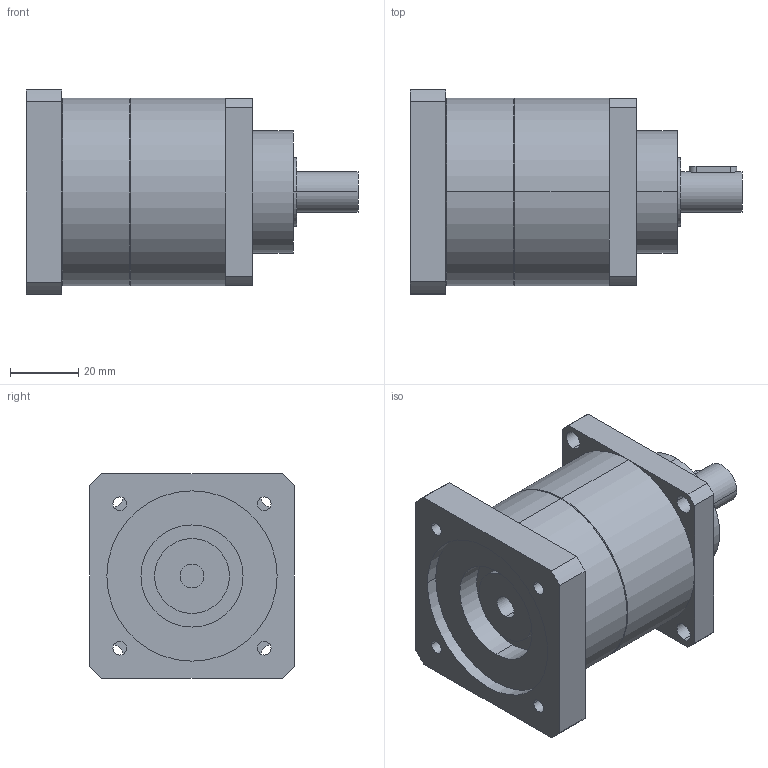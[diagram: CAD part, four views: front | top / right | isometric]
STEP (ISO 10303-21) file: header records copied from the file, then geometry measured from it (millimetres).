
FILE_DESCRIPTION(('CoCreate Modeling STEP Export'),'2;1');
FILE_NAME('GPT55_ig-3-4-5-7-10_12_B5A_7_P18.stp','2014-08-25T14:33:36',(''),(''),'CoCreate Modeling STEP processor for AP214 (Solid Model)','CoCreate Modeling 16.00C 25-Feb-2009 (C) Parametric Technology GmbH','');
FILE_SCHEMA(('AUTOMOTIVE_DESIGN { 1 0 10303 214 1 1 1 1 }'));
Length unit declared in the file: millimetre
Products named in the file (2): GPT55_ig-3-4-5-7-10_12_B5A_7_P18
Assembly tree (1 placements, depth 2):
  GPT55_ig-3-4-5-7-10_12_B5A_7_P18
    GPT55_ig-3-4-5-7-10_12_B5A_7_P18
Bounding box: 97.5 x 60 x 60 mm (x, y, z)
Volume: 177325.5 mm3; surface area: 25995.6 mm2
Topology: 1 solids, 1 shells, 77 faces, 197 edges, 132 vertices
Faces by surface type: cylinder 46, plane 27, cone 4
Entity records: 2480 total; most frequent: CARTESIAN_POINT 703, ORIENTED_EDGE 394, DIRECTION 318, EDGE_CURVE 197, VERTEX_POINT 132, AXIS2_PLACEMENT_3D 117, EDGE_LOOP 103, VECTOR 84
